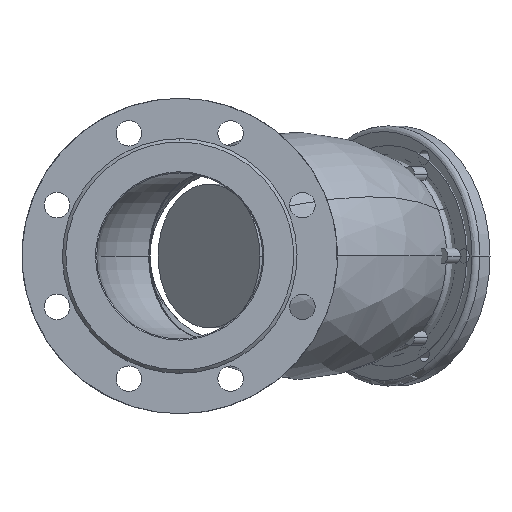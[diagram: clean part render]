
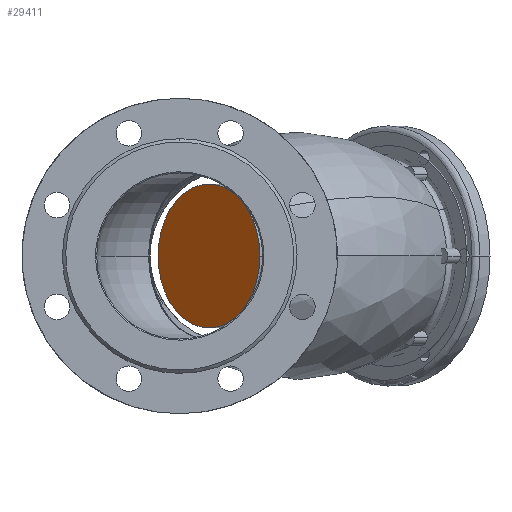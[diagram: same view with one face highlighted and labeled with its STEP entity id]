
A CAD part, left-side view. The second image highlights one B-rep face of the part: STEP entity #29411.
In plain terms, the highlighted planar face has unit normal (-0.707, 0.707, 0).
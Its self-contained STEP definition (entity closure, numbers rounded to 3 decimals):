
#1227 = CARTESIAN_POINT ( 'NONE',  ( 66.429, -66.429, 0. ) ) ;
#2837 = CARTESIAN_POINT ( 'NONE',  ( 106.429, -26.429, 0. ) ) ;
#4847 = CIRCLE ( 'NONE', #8285, 65. ) ;
#5303 = DIRECTION ( 'NONE',  ( 0.707, 0.707, 0. ) ) ;
#5404 = EDGE_CURVE ( 'NONE', #25217, #17134, #4847, .T. ) ;
#5960 = DIRECTION ( 'NONE',  ( 0.707, -0.707, 0. ) ) ;
#8285 = AXIS2_PLACEMENT_3D ( 'NONE', #20205, #5960, #22522 ) ;
#8782 = CARTESIAN_POINT ( 'NONE',  ( 60.467, -72.391, 0. ) ) ;
#10484 = CIRCLE ( 'NONE', #26257, 65. ) ;
#10763 = ORIENTED_EDGE ( 'NONE', *, *, #5404, .F. ) ;
#11397 = EDGE_CURVE ( 'NONE', #17134, #25217, #10484, .T. ) ;
#11731 = FACE_OUTER_BOUND ( 'NONE', #12087, .T. ) ;
#12087 = EDGE_LOOP ( 'NONE', ( #29690, #10763 ) ) ;
#12226 = AXIS2_PLACEMENT_3D ( 'NONE', #1227, #14059, #30505 ) ;
#14059 = DIRECTION ( 'NONE',  ( 0.707, -0.707, 0. ) ) ;
#17134 = VERTEX_POINT ( 'NONE', #21035 ) ;
#19582 = DIRECTION ( 'NONE',  ( 0.707, -0.707, 0. ) ) ;
#20205 = CARTESIAN_POINT ( 'NONE',  ( 106.429, -26.429, 0. ) ) ;
#21035 = CARTESIAN_POINT ( 'NONE',  ( 152.391, 19.533, 0. ) ) ;
#22522 = DIRECTION ( 'NONE',  ( 0.707, 0.707, 0. ) ) ;
#25217 = VERTEX_POINT ( 'NONE', #8782 ) ;
#26257 = AXIS2_PLACEMENT_3D ( 'NONE', #2837, #19582, #5303 ) ;
#28139 = PLANE ( 'NONE',  #12226 ) ;
#29411 = ADVANCED_FACE ( 'NONE', ( #11731 ), #28139, .F. ) ;
#29690 = ORIENTED_EDGE ( 'NONE', *, *, #11397, .F. ) ;
#30505 = DIRECTION ( 'NONE',  ( 0.707, 0.707, 0. ) ) ;
